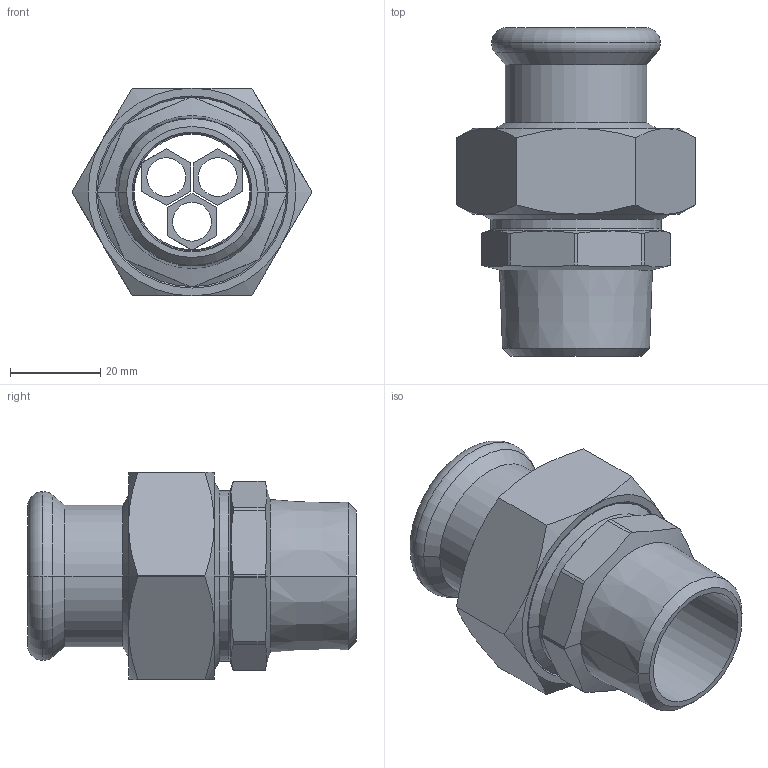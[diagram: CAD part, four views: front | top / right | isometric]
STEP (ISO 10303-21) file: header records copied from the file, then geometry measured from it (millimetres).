
FILE_DESCRIPTION(('OneSpaceDesigner STEP Export'),'2;1');
FILE_NAME('R2735 28xRp1.stp','2010-06-10T13:53:36',(''),(''),'OneSpace Designer STEP processor for AP214 (Solid Model)','OneSpace Modeling 15.00A 14-Mar-2007 (C) CoCreate Software GmbH','');
FILE_SCHEMA(('AUTOMOTIVE_DESIGN { 1 0 10303 214 1 1 1 1 }'));
Length unit declared in the file: millimetre
Products named in the file (2): R2735_28xRp1
Assembly tree (1 placements, depth 2):
  R2735_28xRp1
    R2735_28xRp1
Bounding box: 53.12 x 72.8 x 46 mm (x, y, z)
Volume: 41053.9 mm3; surface area: 21338.3 mm2
Topology: 1 solids, 1 shells, 154 faces, 363 edges, 220 vertices
Faces by surface type: cylinder 51, plane 49, cone 44, torus 10
Entity records: 5314 total; most frequent: CARTESIAN_POINT 2281, ORIENTED_EDGE 726, DIRECTION 471, EDGE_CURVE 363, VERTEX_POINT 220, EDGE_LOOP 171, VECTOR 163, LINE 163
